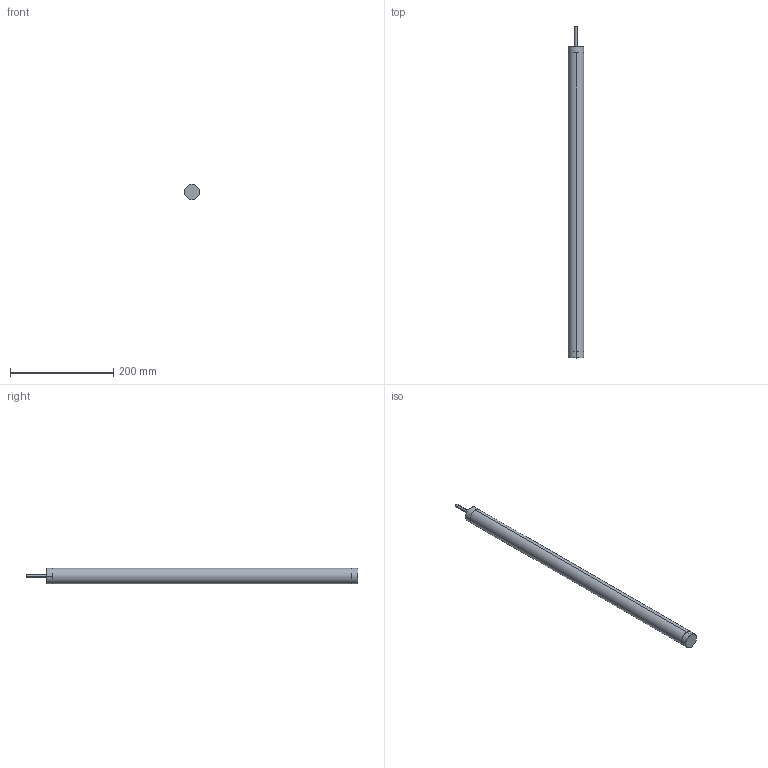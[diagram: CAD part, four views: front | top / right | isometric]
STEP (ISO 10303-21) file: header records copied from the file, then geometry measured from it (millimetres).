
FILE_DESCRIPTION (( 'STEP AP214' ), '1' );
FILE_NAME ('ACTUXXXXEXSMXXX.STEP', '2023-08-28T10:15:27', ( '' ), ( '' ), 'SwSTEP 2.0', 'SolidWorks 2023', '' );
FILE_SCHEMA (( 'AUTOMOTIVE_DESIGN' ));
Length unit declared in the file: millimetre
Products named in the file (5): ACTUXXXXEXSMXXX; WSCP2E0012-1400-01; WSVBPAR0580X5XX-00; WSCP2E0049-1400-00; UL20242-P222
Assembly tree (4 placements, depth 2):
  ACTUXXXXEXSMXXX
    WSVBPAR0580X5XX-00
    WSCP2E0012-1400-01
    WSCP2E0049-1400-00
    UL20242-P222
Bounding box: 30 x 644.21 x 30 mm (x, y, z)
Volume: 155491.7 mm3; surface area: 110387.7 mm2
Topology: 8 solids, 8 shells, 1389 faces, 3217 edges, 1759 vertices
Faces by surface type: cylinder 549, torus 374, sphere 169, plane 153, bspline 140, cone 4
Entity records: 55831 total; most frequent: CARTESIAN_POINT 24884, DIRECTION 7235, ORIENTED_EDGE 6150, AXIS2_PLACEMENT_3D 3168, EDGE_CURVE 3075, CIRCLE 1912, VERTEX_POINT 1705, EDGE_LOOP 1402
